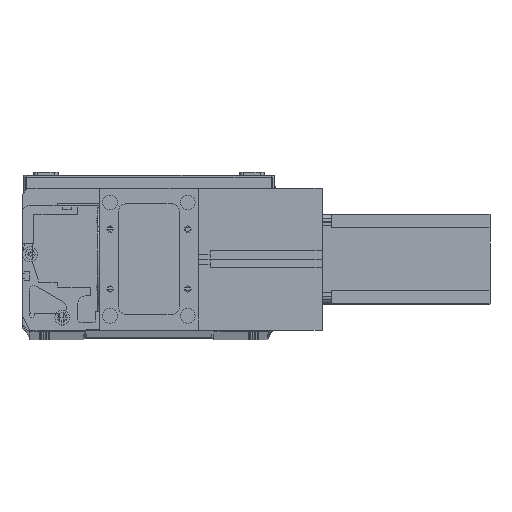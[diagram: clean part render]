
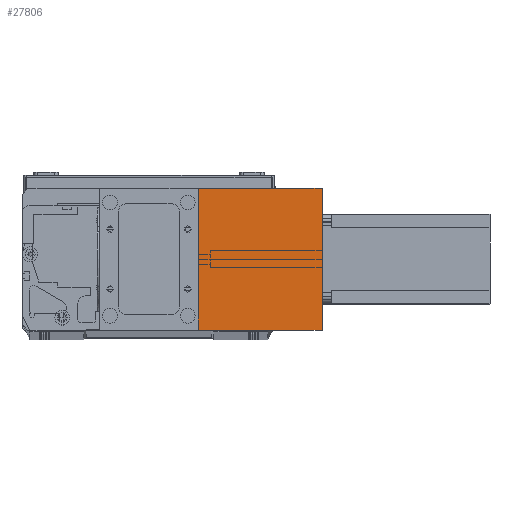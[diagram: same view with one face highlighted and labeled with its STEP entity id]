
A CAD part, top view. The second image highlights one B-rep face of the part: STEP entity #27806.
In plain terms, the highlighted planar face has unit normal (0, 0, 1) as drawn and (1, 0, 0) by its records, which use the part's own axes.
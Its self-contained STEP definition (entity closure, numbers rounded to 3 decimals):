
#1575 = PLANE ( 'NONE',  #27164 ) ;
#2094 = ORIENTED_EDGE ( 'NONE', *, *, #7160, .T. ) ;
#2181 = FACE_OUTER_BOUND ( 'NONE', #24245, .T. ) ;
#3247 = LINE ( 'NONE', #26984, #26920 ) ;
#3862 = CARTESIAN_POINT ( 'NONE',  ( 82., 0., 83. ) ) ;
#4100 = DIRECTION ( 'NONE',  ( -1., 0., 0. ) ) ;
#6393 = CARTESIAN_POINT ( 'NONE',  ( 82., 95., 83. ) ) ;
#6595 = CARTESIAN_POINT ( 'NONE',  ( 82., 0., 83. ) ) ;
#6847 = CARTESIAN_POINT ( 'NONE',  ( 82., 95., 0. ) ) ;
#6886 = LINE ( 'NONE', #10919, #24846 ) ;
#7160 = EDGE_CURVE ( 'NONE', #15469, #23563, #14470, .T. ) ;
#9859 = CARTESIAN_POINT ( 'NONE',  ( 82., 0., 0. ) ) ;
#10919 = CARTESIAN_POINT ( 'NONE',  ( 82., 95., 83. ) ) ;
#14470 = LINE ( 'NONE', #30297, #21004 ) ;
#15469 = VERTEX_POINT ( 'NONE', #9859 ) ;
#16782 = EDGE_CURVE ( 'NONE', #21573, #31463, #3247, .T. ) ;
#17741 = ORIENTED_EDGE ( 'NONE', *, *, #27674, .F. ) ;
#18915 = ORIENTED_EDGE ( 'NONE', *, *, #16782, .F. ) ;
#19038 = LINE ( 'NONE', #6595, #24706 ) ;
#21004 = VECTOR ( 'NONE', #27340, 1000. ) ;
#21271 = DIRECTION ( 'NONE',  ( 0., 0., 1. ) ) ;
#21562 = ORIENTED_EDGE ( 'NONE', *, *, #23933, .T. ) ;
#21573 = VERTEX_POINT ( 'NONE', #21630 ) ;
#21630 = CARTESIAN_POINT ( 'NONE',  ( 82., 0., 83. ) ) ;
#22194 = DIRECTION ( 'NONE',  ( 0., 1., 0. ) ) ;
#23563 = VERTEX_POINT ( 'NONE', #6847 ) ;
#23933 = EDGE_CURVE ( 'NONE', #21573, #15469, #19038, .T. ) ;
#24245 = EDGE_LOOP ( 'NONE', ( #2094, #17741, #18915, #21562 ) ) ;
#24706 = VECTOR ( 'NONE', #26086, 1000. ) ;
#24846 = VECTOR ( 'NONE', #27953, 1000. ) ;
#26086 = DIRECTION ( 'NONE',  ( 0., 0., -1. ) ) ;
#26920 = VECTOR ( 'NONE', #22194, 1000. ) ;
#26984 = CARTESIAN_POINT ( 'NONE',  ( 82., 0., 83. ) ) ;
#27164 = AXIS2_PLACEMENT_3D ( 'NONE', #3862, #4100, #21271 ) ;
#27340 = DIRECTION ( 'NONE',  ( 0., 1., 0. ) ) ;
#27674 = EDGE_CURVE ( 'NONE', #31463, #23563, #6886, .T. ) ;
#27806 = ADVANCED_FACE ( 'NONE', ( #2181 ), #1575, .F. ) ;
#27953 = DIRECTION ( 'NONE',  ( 0., 0., -1. ) ) ;
#30297 = CARTESIAN_POINT ( 'NONE',  ( 82., 0., 0. ) ) ;
#31463 = VERTEX_POINT ( 'NONE', #6393 ) ;
